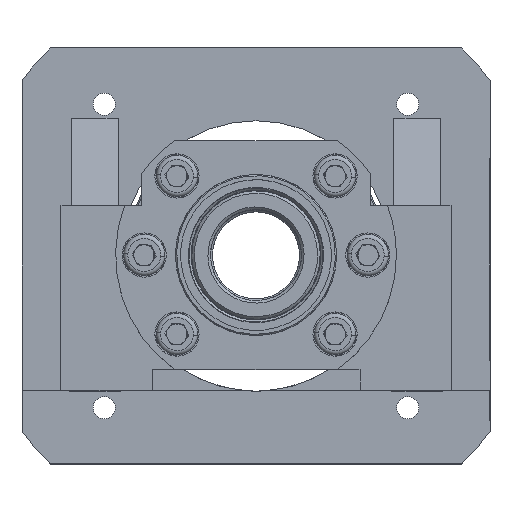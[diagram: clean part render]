
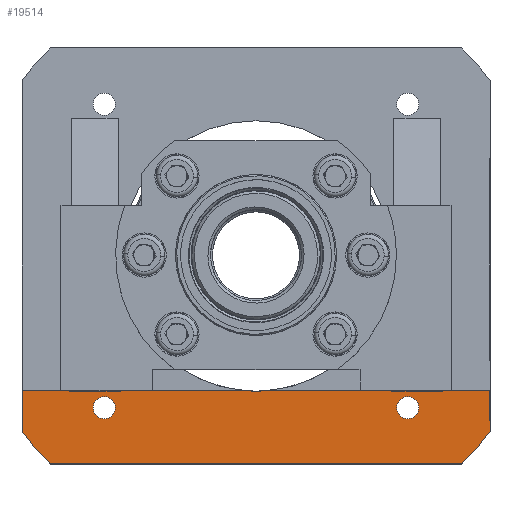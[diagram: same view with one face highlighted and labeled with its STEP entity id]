
A CAD part, top view. The second image highlights one B-rep face of the part: STEP entity #19514.
In plain terms, the highlighted planar face has unit normal (0, 0, 1).
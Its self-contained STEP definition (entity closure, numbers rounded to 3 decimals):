
#142 = CARTESIAN_POINT ( 'NONE',  ( -90., -67.5, 21. ) ) ;
#270 = AXIS2_PLACEMENT_3D ( 'NONE', #7118, #21868, #7693 ) ;
#499 = DIRECTION ( 'NONE',  ( 1., 0., 0. ) ) ;
#740 = DIRECTION ( 'NONE',  ( 0., 0., 1. ) ) ;
#760 = LINE ( 'NONE', #3117, #11907 ) ;
#1517 = CIRCLE ( 'NONE', #1804, 112.5 ) ;
#1708 = VERTEX_POINT ( 'NONE', #142 ) ;
#1804 = AXIS2_PLACEMENT_3D ( 'NONE', #13282, #740, #15411 ) ;
#2000 = ORIENTED_EDGE ( 'NONE', *, *, #7396, .T. ) ;
#2505 = LINE ( 'NONE', #26357, #18591 ) ;
#2628 = VECTOR ( 'NONE', #499, 1000. ) ;
#2907 = CARTESIAN_POINT ( 'NONE',  ( 79.096, -80., 21. ) ) ;
#3117 = CARTESIAN_POINT ( 'NONE',  ( -104.626, -51.7, 21. ) ) ;
#3444 = EDGE_CURVE ( 'NONE', #21447, #12857, #26336, .T. ) ;
#3544 = CIRCLE ( 'NONE', #270, 52. ) ;
#4172 = CARTESIAN_POINT ( 'NONE',  ( 62.586, -58.336, 21. ) ) ;
#4989 = EDGE_LOOP ( 'NONE', ( #14245, #18641 ) ) ;
#5093 = EDGE_CURVE ( 'NONE', #19569, #13862, #20372, .T. ) ;
#6079 = DIRECTION ( 'NONE',  ( 0., 0., 1. ) ) ;
#6290 = DIRECTION ( 'NONE',  ( 0., 0., 1. ) ) ;
#6359 = CIRCLE ( 'NONE', #26898, 112.5 ) ;
#7118 = CARTESIAN_POINT ( 'NONE',  ( 0., 0., 21. ) ) ;
#7128 = DIRECTION ( 'NONE',  ( 0., 0., 1. ) ) ;
#7335 = CARTESIAN_POINT ( 'NONE',  ( 54.086, -58.336, 21. ) ) ;
#7396 = EDGE_CURVE ( 'NONE', #15101, #12857, #3544, .T. ) ;
#7678 = EDGE_LOOP ( 'NONE', ( #20802, #24278 ) ) ;
#7693 = DIRECTION ( 'NONE',  ( 1., 0., 0. ) ) ;
#7727 = EDGE_CURVE ( 'NONE', #12802, #11131, #12047, .T. ) ;
#7747 = DIRECTION ( 'NONE',  ( 0., 0., 1. ) ) ;
#8036 = FACE_OUTER_BOUND ( 'NONE', #15849, .T. ) ;
#8124 = CARTESIAN_POINT ( 'NONE',  ( 90., 80., 21. ) ) ;
#8181 = DIRECTION ( 'NONE',  ( 0., 0., 1. ) ) ;
#8745 = CARTESIAN_POINT ( 'NONE',  ( -62.586, -58.336, 21. ) ) ;
#8848 = EDGE_CURVE ( 'NONE', #20090, #13806, #21275, .T. ) ;
#8919 = AXIS2_PLACEMENT_3D ( 'NONE', #19744, #7128, #21877 ) ;
#9055 = CARTESIAN_POINT ( 'NONE',  ( -79.096, -80., 21. ) ) ;
#9193 = ORIENTED_EDGE ( 'NONE', *, *, #11209, .T. ) ;
#9407 = CARTESIAN_POINT ( 'NONE',  ( -54.086, -58.336, 21. ) ) ;
#9498 = DIRECTION ( 'NONE',  ( 0., -1., 0. ) ) ;
#10098 = CARTESIAN_POINT ( 'NONE',  ( 0., 0., 21. ) ) ;
#10120 = CARTESIAN_POINT ( 'NONE',  ( -104.626, -112., 21. ) ) ;
#10289 = CARTESIAN_POINT ( 'NONE',  ( -90., -51.7, 21. ) ) ;
#10306 = EDGE_CURVE ( 'NONE', #21447, #1708, #2505, .T. ) ;
#10915 = ORIENTED_EDGE ( 'NONE', *, *, #22173, .F. ) ;
#10918 = ORIENTED_EDGE ( 'NONE', *, *, #3444, .F. ) ;
#11131 = VERTEX_POINT ( 'NONE', #8745 ) ;
#11209 = EDGE_CURVE ( 'NONE', #22030, #23090, #24321, .T. ) ;
#11907 = VECTOR ( 'NONE', #15668, 1000. ) ;
#12047 = CIRCLE ( 'NONE', #19996, 4.25 ) ;
#12193 = DIRECTION ( 'NONE',  ( 1., 0., 0. ) ) ;
#12377 = CARTESIAN_POINT ( 'NONE',  ( -104.626, -51.7, 21. ) ) ;
#12802 = VERTEX_POINT ( 'NONE', #9407 ) ;
#12857 = VERTEX_POINT ( 'NONE', #15851 ) ;
#13039 = CARTESIAN_POINT ( 'NONE',  ( -90., -80., 21. ) ) ;
#13282 = CARTESIAN_POINT ( 'NONE',  ( 0., 0., 21. ) ) ;
#13456 = ORIENTED_EDGE ( 'NONE', *, *, #5093, .T. ) ;
#13806 = VERTEX_POINT ( 'NONE', #4172 ) ;
#13862 = VERTEX_POINT ( 'NONE', #25324 ) ;
#14245 = ORIENTED_EDGE ( 'NONE', *, *, #8848, .F. ) ;
#14918 = AXIS2_PLACEMENT_3D ( 'NONE', #20362, #7747, #22493 ) ;
#15101 = VERTEX_POINT ( 'NONE', #26520 ) ;
#15117 = VECTOR ( 'NONE', #27120, 1000. ) ;
#15411 = DIRECTION ( 'NONE',  ( 1., 0., 0. ) ) ;
#15668 = DIRECTION ( 'NONE',  ( 1., 0., 0. ) ) ;
#15849 = EDGE_LOOP ( 'NONE', ( #21027, #22321, #9193, #17852, #13456, #10915, #2000, #10918 ) ) ;
#15851 = CARTESIAN_POINT ( 'NONE',  ( -5.578, -51.7, 21. ) ) ;
#16095 = EDGE_CURVE ( 'NONE', #1708, #22030, #1517, .T. ) ;
#16558 = PLANE ( 'NONE',  #27065 ) ;
#17852 = ORIENTED_EDGE ( 'NONE', *, *, #21279, .T. ) ;
#17903 = FACE_BOUND ( 'NONE', #4989, .T. ) ;
#18591 = VECTOR ( 'NONE', #9498, 1000. ) ;
#18641 = ORIENTED_EDGE ( 'NONE', *, *, #22047, .F. ) ;
#18766 = CARTESIAN_POINT ( 'NONE',  ( 90., -67.5, 21. ) ) ;
#18901 = CARTESIAN_POINT ( 'NONE',  ( -58.336, -58.336, 21. ) ) ;
#19514 = ADVANCED_FACE ( 'NONE', ( #17903, #23530, #8036 ), #16558, .T. ) ;
#19569 = VERTEX_POINT ( 'NONE', #18766 ) ;
#19701 = VECTOR ( 'NONE', #27084, 1000. ) ;
#19744 = CARTESIAN_POINT ( 'NONE',  ( 58.336, -58.336, 21. ) ) ;
#19996 = AXIS2_PLACEMENT_3D ( 'NONE', #18901, #6290, #21011 ) ;
#20090 = VERTEX_POINT ( 'NONE', #7335 ) ;
#20362 = CARTESIAN_POINT ( 'NONE',  ( -58.336, -58.336, 21. ) ) ;
#20372 = LINE ( 'NONE', #8124, #19701 ) ;
#20802 = ORIENTED_EDGE ( 'NONE', *, *, #23298, .F. ) ;
#20803 = DIRECTION ( 'NONE',  ( 1., 0., 0. ) ) ;
#20809 = CARTESIAN_POINT ( 'NONE',  ( 58.336, -58.336, 21. ) ) ;
#21011 = DIRECTION ( 'NONE',  ( 1., 0., 0. ) ) ;
#21027 = ORIENTED_EDGE ( 'NONE', *, *, #10306, .T. ) ;
#21275 = CIRCLE ( 'NONE', #22164, 4.25 ) ;
#21279 = EDGE_CURVE ( 'NONE', #23090, #19569, #6359, .T. ) ;
#21447 = VERTEX_POINT ( 'NONE', #10289 ) ;
#21868 = DIRECTION ( 'NONE',  ( 0., 0., -1. ) ) ;
#21877 = DIRECTION ( 'NONE',  ( 1., 0., 0. ) ) ;
#22030 = VERTEX_POINT ( 'NONE', #9055 ) ;
#22047 = EDGE_CURVE ( 'NONE', #13806, #20090, #23781, .T. ) ;
#22164 = AXIS2_PLACEMENT_3D ( 'NONE', #20809, #8181, #22924 ) ;
#22173 = EDGE_CURVE ( 'NONE', #15101, #13862, #760, .T. ) ;
#22321 = ORIENTED_EDGE ( 'NONE', *, *, #16095, .T. ) ;
#22493 = DIRECTION ( 'NONE',  ( 1., 0., 0. ) ) ;
#22924 = DIRECTION ( 'NONE',  ( 1., 0., 0. ) ) ;
#23090 = VERTEX_POINT ( 'NONE', #2907 ) ;
#23298 = EDGE_CURVE ( 'NONE', #11131, #12802, #24425, .T. ) ;
#23530 = FACE_BOUND ( 'NONE', #7678, .T. ) ;
#23781 = CIRCLE ( 'NONE', #8919, 4.25 ) ;
#24278 = ORIENTED_EDGE ( 'NONE', *, *, #7727, .F. ) ;
#24321 = LINE ( 'NONE', #13039, #2628 ) ;
#24425 = CIRCLE ( 'NONE', #14918, 4.25 ) ;
#24832 = DIRECTION ( 'NONE',  ( 0., 0., 1. ) ) ;
#25324 = CARTESIAN_POINT ( 'NONE',  ( 90., -51.7, 21. ) ) ;
#26336 = LINE ( 'NONE', #12377, #15117 ) ;
#26357 = CARTESIAN_POINT ( 'NONE',  ( -90., 80., 21. ) ) ;
#26520 = CARTESIAN_POINT ( 'NONE',  ( 5.578, -51.7, 21. ) ) ;
#26898 = AXIS2_PLACEMENT_3D ( 'NONE', #10098, #24832, #12193 ) ;
#27065 = AXIS2_PLACEMENT_3D ( 'NONE', #10120, #6079, #20803 ) ;
#27084 = DIRECTION ( 'NONE',  ( 0., 1., 0. ) ) ;
#27120 = DIRECTION ( 'NONE',  ( 1., 0., 0. ) ) ;
